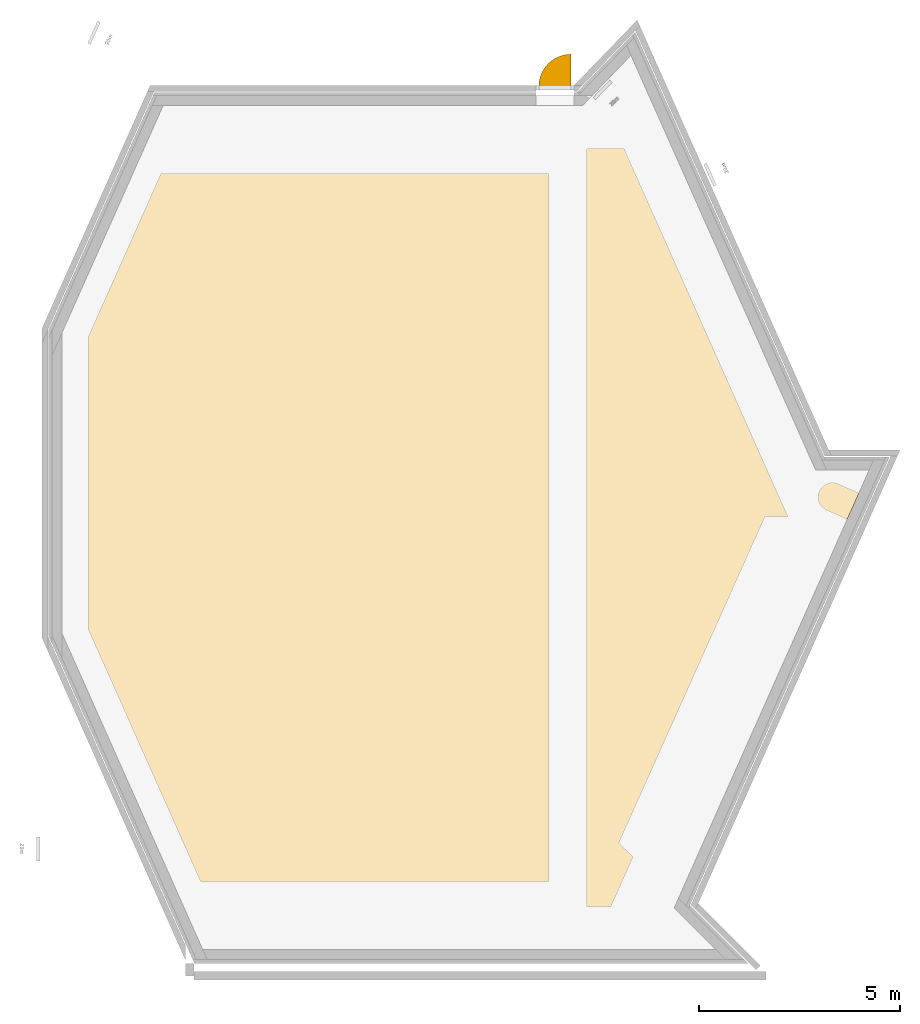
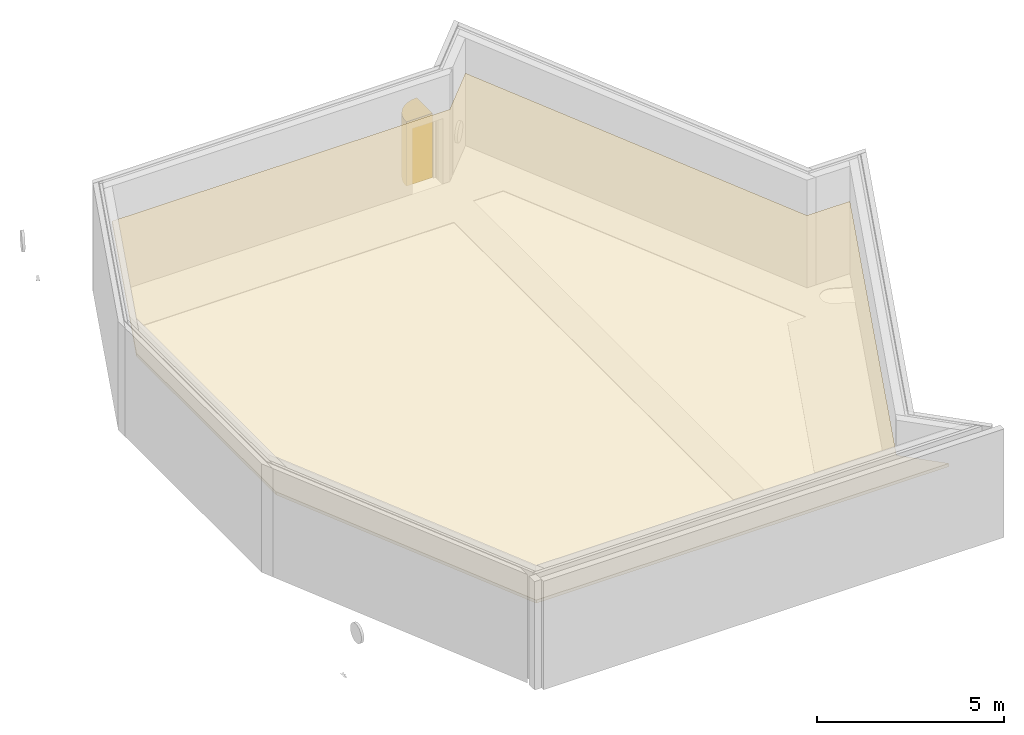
# One storey, part 3 of 4: 1 covering, 1 door, 1 element without a shape of its own.
"""IFC2X3 building model written with IfcOpenShell, lengths in millimetres."""

import ifcopenshell
import ifcopenshell.guid

model = None  # the IFC model being written
_history = None  # IfcOwnerHistory: only IFC2X3 demands one
_inside = {}  # id of a spatial element -> (the spatial element, [elements in it])
_under = {}  # id of a project, library or spatial element -> (it, [spatial elements below it])
_declared = {}  # id of a project -> (the project, [libraries it declares])
_typed = {}  # id of a type object -> (the type object, [elements of that type])
_made_of = {}  # id of a material, layer set ... -> (it, [elements and type objects made of it])


def new_model(schema):
    """Start an empty IFC model of exactly this schema.

    Asked for "IFC4X3", IfcOpenShell would pick the latest addendum, in which some entities
    have other attributes; the version numbers below select the first issue.
    IFC2X3 requires an IfcOwnerHistory on every rooted entity: one is made here for all.
    """
    global model, _history
    if schema == "IFC4X3":
        model = ifcopenshell.file(schema_version=(4, 3, 0, 0))
    else:
        model = ifcopenshell.file(schema=schema)
    _inside.clear()
    _under.clear()
    _declared.clear()
    _typed.clear()
    _made_of.clear()
    _history = None
    if model.schema == "IFC2X3":
        org = make("IfcOrganization", Name="unknown")
        user = make(
            "IfcPersonAndOrganization",
            ThePerson=make("IfcPerson", FamilyName="unknown"),
            TheOrganization=org,
        )
        app = make(
            "IfcApplication",
            ApplicationDeveloper=org,
            Version="unknown",
            ApplicationFullName="unknown",
            ApplicationIdentifier="unknown",
        )
        _history = make(
            "IfcOwnerHistory",
            OwningUser=user,
            OwningApplication=app,
            ChangeAction="ADDED",
            CreationDate=0,
        )
    return model


def make(cls, **values):
    """One entity of the class cls with the attributes given. An attribute that is None is left unset."""
    return model.create_entity(
        cls, **{name: value for name, value in values.items() if value is not None}
    )


def entity(cls, *values):
    """Any entity or typed value of the class cls, its attributes in the order of the schema. None: left unset."""
    e = model.create_entity(cls)
    for i, value in enumerate(values):
        if value is not None:
            e[i] = value
    return e


def rooted(cls, **values):
    """An entity with a GlobalId (a new one), such as an element, a storey or a relation."""
    return make(cls, GlobalId=ifcopenshell.guid.new(), OwnerHistory=_history, **values)


def si_unit(unit_type, name, prefix=None):
    """IfcSIUnit, for example si_unit("LENGTHUNIT", "METRE", prefix="MILLI")."""
    return make("IfcSIUnit", UnitType=unit_type, Prefix=prefix, Name=name)


def converted_unit(unit_type, name, factor, base, dimensions=None, offset=None):
    """IfcConversionBasedUnit, such as the inch: factor (a typed value) times the base unit."""
    return make(
        "IfcConversionBasedUnit"
        if offset is None
        else "IfcConversionBasedUnitWithOffset",
        ConversionOffset=offset,
        Dimensions=None
        if dimensions is None
        else entity("IfcDimensionalExponents", *dimensions),
        UnitType=unit_type,
        Name=name,
        ConversionFactor=make(
            "IfcMeasureWithUnit", ValueComponent=factor, UnitComponent=base
        ),
    )


def derived_unit(unit_type, elements):
    """IfcDerivedUnit: a product of units, each with its exponent."""
    return make(
        "IfcDerivedUnit",
        Elements=[
            make("IfcDerivedUnitElement", Unit=unit, Exponent=power)
            for unit, power in elements
        ],
        UnitType=unit_type,
    )


def assignment(units):
    """IfcUnitAssignment: the units of a project."""
    return None if units is None else make("IfcUnitAssignment", Units=units)


def point(xyz):
    """IfcCartesianPoint."""
    return None if xyz is None else make("IfcCartesianPoint", Coordinates=xyz)


def direction(xyz):
    """IfcDirection."""
    return None if xyz is None else make("IfcDirection", DirectionRatios=xyz)


def frame(location, z_axis=None, x_axis=None):
    """IfcAxis2Placement3D, a coordinate frame: its origin and axes. An axis left out is left unset."""
    return make(
        "IfcAxis2Placement3D",
        Location=point(location),
        Axis=direction(z_axis),
        RefDirection=direction(x_axis),
    )


def frame_2d(location, x_axis=None):
    """IfcAxis2Placement2D, a coordinate frame in the plane: its origin and x axis."""
    return make(
        "IfcAxis2Placement2D", Location=point(location), RefDirection=direction(x_axis)
    )


def origin():
    """The frame at (0, 0, 0) with its axes left unset."""
    return frame((0.0, 0.0, 0.0))


def origin_2d_with_axis():
    """The frame at (0, 0) in the plane with the x axis (1, 0) written out."""
    return frame_2d((0.0, 0.0), x_axis=(1.0, 0.0))


def place(relative_to, where):
    """IfcLocalPlacement: puts the frame where relative to a parent placement (None: the world)."""
    return make(
        "IfcLocalPlacement", PlacementRelTo=relative_to, RelativePlacement=where
    )


def context(
    kind, dimensions, precision=None, world=None, true_north=None, identifier=None
):
    """IfcGeometricRepresentationContext, for example the 3D "Model" context."""
    return make(
        "IfcGeometricRepresentationContext",
        ContextIdentifier=identifier,
        ContextType=kind,
        CoordinateSpaceDimension=dimensions,
        Precision=precision,
        WorldCoordinateSystem=world,
        TrueNorth=true_north,
    )


def subcontext(parent, identifier, kind, view, scale=None):
    """IfcGeometricRepresentationSubContext, for example "Body" below "Model"."""
    return make(
        "IfcGeometricRepresentationSubContext",
        ContextIdentifier=identifier,
        ContextType=kind,
        ParentContext=parent,
        TargetScale=scale,
        TargetView=view,
    )


def project(units=None, contexts=None):
    """IfcProject with its units and contexts."""
    return rooted(
        "IfcProject",
        Name="project",
        RepresentationContexts=contexts,
        UnitsInContext=assignment(units),
    )


def spatial(cls, under=None, at=None, **own):
    """A site, building, storey or space (cls), placed at a placement, below another one or the project."""
    s = rooted(cls, ObjectPlacement=at, **own)
    if under is not None:
        _under.setdefault(under.id(), (under, []))[1].append(s)
    return s


def polyline(points):
    """IfcPolyline through the points."""
    return make("IfcPolyline", Points=[point(p) for p in points])


def circle_curve(where, radius):
    """IfcCircle in the frame where."""
    return make("IfcCircle", Position=where, Radius=radius)


def parameter(value):
    """IfcParameterValue: where a trimmed curve begins or ends, as a parameter of its basis curve."""
    return model.create_entity("IfcParameterValue", value)


def trimmed(basis, trim1, trim2, sense, master):
    """IfcTrimmedCurve: the piece of a basis curve between two trims."""
    return make(
        "IfcTrimmedCurve",
        BasisCurve=basis,
        Trim1=trim1,
        Trim2=trim2,
        SenseAgreement=sense,
        MasterRepresentation=master,
    )


def segment(curve, same_sense, transition):
    """IfcCompositeCurveSegment."""
    return make(
        "IfcCompositeCurveSegment",
        Transition=transition,
        SameSense=same_sense,
        ParentCurve=curve,
    )


def composite_curve(segments, self_intersect=None):
    """IfcCompositeCurve: segments joined end to end."""
    return make("IfcCompositeCurve", Segments=segments, SelfIntersect=self_intersect)


def profile(cls, at=None, kind="AREA", **sizes):
    """A parametric profile (cls). Its sizes go by their IFC names, for example OverallWidth=200.0."""
    return make(cls, ProfileType=kind, Position=at, **sizes)


def rectangle(**sizes):
    """IfcRectangleProfileDef."""
    return profile("IfcRectangleProfileDef", **sizes)


def outline(outer, holes=None, kind="AREA"):
    """IfcArbitraryClosedProfileDef: a profile drawn as a closed curve; with holes, ...WithVoids."""
    if holes is None:
        return make("IfcArbitraryClosedProfileDef", ProfileType=kind, OuterCurve=outer)
    return make(
        "IfcArbitraryProfileDefWithVoids",
        ProfileType=kind,
        OuterCurve=outer,
        InnerCurves=holes,
    )


def extrude(swept, where, along, depth):
    """IfcExtrudedAreaSolid: the profile swept, set in the frame where, extruded along a direction by depth."""
    return make(
        "IfcExtrudedAreaSolid",
        SweptArea=swept,
        Position=where,
        ExtrudedDirection=direction(along),
        Depth=depth,
    )


def shape(context_of_items, identifier, shape_type, items):
    """IfcShapeRepresentation: the items that make up one representation, for example the "Body"."""
    return make(
        "IfcShapeRepresentation",
        ContextOfItems=context_of_items,
        RepresentationIdentifier=identifier,
        RepresentationType=shape_type,
        Items=items,
    )


def source(mapping_origin, context_of_items, identifier, shape_type, items):
    """IfcRepresentationMap: a shape defined once, which mapped items show again and again."""
    return make(
        "IfcRepresentationMap",
        MappingOrigin=mapping_origin,
        MappedRepresentation=shape(context_of_items, identifier, shape_type, items),
    )


def transform(
    local_origin,
    x_axis=None,
    y_axis=None,
    z_axis=None,
    scale=None,
    scale2=None,
    scale3=None,
    uniform=True,
):
    """IfcCartesianTransformationOperator3D, or its non-uniform kind. x_axis, y_axis, z_axis: its Axis1, 2, 3."""
    if uniform:
        return make(
            "IfcCartesianTransformationOperator3D",
            Axis1=direction(x_axis),
            Axis2=direction(y_axis),
            LocalOrigin=point(local_origin),
            Scale=scale,
            Axis3=direction(z_axis),
        )
    return make(
        "IfcCartesianTransformationOperator3DnonUniform",
        Axis1=direction(x_axis),
        Axis2=direction(y_axis),
        LocalOrigin=point(local_origin),
        Scale=scale,
        Axis3=direction(z_axis),
        Scale2=scale2,
        Scale3=scale3,
    )


def mapped(mapping_source, mapping_target):
    """IfcMappedItem: shows the shape of a source again, moved by a transform."""
    return make(
        "IfcMappedItem", MappingSource=mapping_source, MappingTarget=mapping_target
    )


def material(Name=None, Category=None):
    """IfcMaterial."""
    return make("IfcMaterial", Name=Name, Category=Category)


def material_list(materials):
    """IfcMaterialList."""
    return make("IfcMaterialList", Materials=materials)


def layer(
    of_material, thickness, ventilated=None, Name=None, Category=None, Priority=None
):
    """IfcMaterialLayer: one layer of a wall or slab, of a material (None: an air gap)."""
    return make(
        "IfcMaterialLayer",
        Material=of_material,
        LayerThickness=thickness,
        IsVentilated=ventilated,
        Name=Name,
        Category=Category,
        Priority=Priority,
    )


def layer_set(layers, Name=None):
    """IfcMaterialLayerSet."""
    return make("IfcMaterialLayerSet", MaterialLayers=layers, LayerSetName=Name)


def layer_usage(for_layer_set, set_direction, sense, offset, extent=None):
    """IfcMaterialLayerSetUsage: how a layer set lies in its element."""
    return make(
        "IfcMaterialLayerSetUsage",
        ForLayerSet=for_layer_set,
        LayerSetDirection=set_direction,
        DirectionSense=sense,
        OffsetFromReferenceLine=offset,
        ReferenceExtent=extent,
    )


def made_of(thing, what):
    """Note that an element or type object is made of a material, layer set ...; save() writes the relation."""
    if what is not None:
        _made_of.setdefault(what.id(), (what, []))[1].append(thing)
    return thing


def type_object(cls, material=None, **own):
    """A type object (cls), such as IfcWallType, which elements share."""
    return made_of(rooted(cls, **own), material)


def type_shapes(of_type, sources):
    """Give a type object the sources (RepresentationMaps) that its elements show as mapped items."""
    of_type.RepresentationMaps = sources


def element(
    cls,
    number,
    at=None,
    inside=None,
    cuts=None,
    type_object=None,
    material=None,
    context=None,
    identifier="Body",
    shape_type=None,
    held_by="IfcProductDefinitionShape",
    body=None,
    shapes=None,
    **own,
):
    """One element of the class cls, such as IfcWall. Its Tag is "e" and its number.

    at: its placement. inside: the storey or other place that contains it. cuts: it is an
    opening in that element (IfcRelVoidsElement). A single representation is given by context,
    identifier, shape_type and body (its items); several are given by shapes. held_by: the class
    of the entity that holds the representations. save() writes the other relations.
    """
    e = rooted(cls, Tag="e%d" % number, ObjectPlacement=at, **own)
    if body is not None:
        shapes = [shape(context, identifier, shape_type, body)]
    if shapes is not None:
        e.Representation = make(held_by, Representations=shapes)
    if inside is not None:
        _inside.setdefault(inside.id(), (inside, []))[1].append(e)
    if cuts is not None:
        rooted(
            "IfcRelVoidsElement", RelatingBuildingElement=cuts, RelatedOpeningElement=e
        )
    if type_object is not None:
        _typed.setdefault(type_object.id(), (type_object, []))[1].append(e)
    return made_of(e, material)


def aggregate(whole, parts):
    """IfcRelAggregates: a whole, such as a stair, and the parts it consists of."""
    return rooted("IfcRelAggregates", RelatingObject=whole, RelatedObjects=parts)


def save(model, path):
    """Write the relations noted so far, then the file.

    IfcRelAggregates (storeys below a building ...), IfcRelContainedInSpatialStructure (elements
    in a storey), IfcRelDefinesByType, IfcRelAssociatesMaterial and IfcRelDeclares: one each for
    every whole, place, type object, material and project.
    """
    for whole, parts in _under.values():
        aggregate(whole, parts)
    for where, things in _inside.values():
        rooted(
            "IfcRelContainedInSpatialStructure",
            RelatedElements=things,
            RelatingStructure=where,
        )
    for kind, things in _typed.values():
        rooted("IfcRelDefinesByType", RelatedObjects=things, RelatingType=kind)
    for what, things in _made_of.values():
        rooted("IfcRelAssociatesMaterial", RelatedObjects=things, RelatingMaterial=what)
    for by, libraries in _declared.values():
        rooted("IfcRelDeclares", RelatingContext=by, RelatedDefinitions=libraries)
    model.write(path)


model = new_model("IFC2X3")

# Units and contexts
model_context = context("Model", 3, precision=0.01, world=origin(), true_north=direction((6.123031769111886e-17, 1.0)))
body_context = subcontext(model_context, "Body", "Model", "MODEL_VIEW")
ifc_project = project(units=[si_unit("LENGTHUNIT", "METRE", prefix="MILLI"), si_unit("AREAUNIT", "SQUARE_METRE"), si_unit("VOLUMEUNIT", "CUBIC_METRE"), converted_unit("PLANEANGLEUNIT", "DEGREE", entity("IfcRatioMeasure", 0.017453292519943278), si_unit("PLANEANGLEUNIT", "RADIAN"), dimensions=[0, 0, 0, 0, 0, 0, 0]), si_unit("MASSUNIT", "GRAM", prefix="KILO"), derived_unit("MASSDENSITYUNIT", [(si_unit("MASSUNIT", "GRAM", prefix="KILO"), 1), (si_unit("LENGTHUNIT", "METRE"), -3)]), derived_unit("MOMENTOFINERTIAUNIT", [(si_unit("LENGTHUNIT", "METRE"), 4)]), si_unit("TIMEUNIT", "SECOND"), si_unit("FREQUENCYUNIT", "HERTZ"), si_unit("THERMODYNAMICTEMPERATUREUNIT", "DEGREE_CELSIUS"), derived_unit("THERMALTRANSMITTANCEUNIT", [(si_unit("MASSUNIT", "GRAM", prefix="KILO"), 1), (si_unit("THERMODYNAMICTEMPERATUREUNIT", "KELVIN"), -1), (si_unit("TIMEUNIT", "SECOND"), -3)]), derived_unit("VOLUMETRICFLOWRATEUNIT", [(si_unit("LENGTHUNIT", "METRE"), 3), (si_unit("TIMEUNIT", "SECOND"), -1)]), derived_unit("MASSFLOWRATEUNIT", [(si_unit("MASSUNIT", "GRAM", prefix="KILO"), 1), (si_unit("TIMEUNIT", "SECOND"), -1)]), derived_unit("ROTATIONALFREQUENCYUNIT", [(si_unit("TIMEUNIT", "SECOND"), -1)]), si_unit("ELECTRICCURRENTUNIT", "AMPERE"), si_unit("ELECTRICVOLTAGEUNIT", "VOLT"), si_unit("POWERUNIT", "WATT"), si_unit("FORCEUNIT", "NEWTON", prefix="KILO"), si_unit("ILLUMINANCEUNIT", "LUX"), si_unit("LUMINOUSFLUXUNIT", "LUMEN"), si_unit("LUMINOUSINTENSITYUNIT", "CANDELA"), derived_unit("USERDEFINED", [(si_unit("MASSUNIT", "GRAM", prefix="KILO"), -1), (si_unit("LENGTHUNIT", "METRE"), -2), (si_unit("TIMEUNIT", "SECOND"), 3), (si_unit("LUMINOUSFLUXUNIT", "LUMEN"), 1)]), derived_unit("SOUNDPOWERUNIT", [(si_unit("MASSUNIT", "GRAM", prefix="KILO"), 1), (si_unit("LENGTHUNIT", "METRE"), 2), (si_unit("TIMEUNIT", "SECOND"), -3)]), derived_unit("SOUNDPRESSUREUNIT", [(si_unit("MASSUNIT", "GRAM", prefix="KILO"), 1), (si_unit("LENGTHUNIT", "METRE"), -1), (si_unit("TIMEUNIT", "SECOND"), -2)]), derived_unit("LINEARVELOCITYUNIT", [(si_unit("LENGTHUNIT", "METRE"), 1), (si_unit("TIMEUNIT", "SECOND"), -1)]), si_unit("PRESSUREUNIT", "PASCAL"), derived_unit("USERDEFINED", [(si_unit("LENGTHUNIT", "METRE"), -2), (si_unit("MASSUNIT", "GRAM", prefix="KILO"), 1), (si_unit("TIMEUNIT", "SECOND"), -2)]), derived_unit("LINEARFORCEUNIT", [(si_unit("MASSUNIT", "GRAM", prefix="KILO"), 1), (si_unit("LENGTHUNIT", "METRE"), 1), (si_unit("TIMEUNIT", "SECOND"), -2), (si_unit("LENGTHUNIT", "METRE"), -1)]), derived_unit("PLANARFORCEUNIT", [(si_unit("MASSUNIT", "GRAM", prefix="KILO"), 1), (si_unit("LENGTHUNIT", "METRE"), 1), (si_unit("TIMEUNIT", "SECOND"), -2), (si_unit("LENGTHUNIT", "METRE"), -2)])], contexts=[model_context])

# Site, building, storey
site_placement = place(None, frame((-10000.0, -10000.0, 0.0)))
site = spatial("IfcSite", under=ifc_project, at=site_placement, Name="Default", CompositionType="ELEMENT")
building_placement = place(site_placement, origin())
building = spatial("IfcBuilding", under=site, at=building_placement, CompositionType="ELEMENT")
storey_placement = place(building_placement, frame((0.0, 0.0, 12600.0)))
storey = spatial("IfcBuildingStorey", under=building, at=storey_placement, Name="03 3e verdieping", CompositionType="ELEMENT", Elevation=12600.0)

# Curtain wall, door
curtain_wall_type = type_object("IfcCurtainWallType", Name="Curtain Wall:NLRS_32_CWA_houten binnenkozijnen ts90_ags", PredefinedType="NOTDEFINED")
curtain_wall_placement = place(storey_placement, frame((0.0, 0.0, -12600.0)))
curtain_wall = element("IfcCurtainWall", 1, at=curtain_wall_placement, inside=storey, type_object=curtain_wall_type, Name="Curtain Wall:NLRS_32_CWA_houten binnenkozijnen ts90_ags", ObjectType="Curtain Wall:NLRS_32_CWA_houten binnenkozijnen ts90_ags")
ifc_material_1 = material(Name="NLRS_a_clashvolume")
ifc_material_2 = material(Name="<Unnamed>")
ifc_material_list_1 = material_list([ifc_material_1, ifc_material_2])
ifc_material_list_2 = material_list([ifc_material_1, ifc_material_2])
door_style = type_object("IfcDoorStyle", Name="NLRS_31_DO_houten deur_ags:deur dicht", ConstructionType="NOTDEFINED", OperationType="NOTDEFINED", ParameterTakesPrecedence=False, Sizeable=False, material=ifc_material_list_2)
shared_shape = source(origin(), body_context, "Body", "SweptSolid", [
    extrude(outline(composite_curve([segment(trimmed(circle_curve(frame_2d((-268.6666666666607, 268.6666666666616), x_axis=(1.0, 0.0)), 805.9999999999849), [parameter(270.0)], [parameter(0.0)], True, "PARAMETER"), True, "CONTINUOUS"), segment(polyline([(537.3333333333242, 268.6666666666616), (-268.66666666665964, 268.6666666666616)]), True, "CONTINUOUS"), segment(polyline([(-268.66666666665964, 268.6666666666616), (-268.66666666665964, -537.3333333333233)]), True, "CONTINUOUS")], self_intersect=False)), frame((-134.3333333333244, -301.1666666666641, 0.0)), (0.0, 0.0, 1.0), 2103.0000000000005),
    extrude(rectangle(XDim=40.00000000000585, YDim=805.99999999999, at=origin_2d_with_axis()), frame((0.0, -12.499999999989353, 0.0), z_axis=(0.0, 0.0, 1.0), x_axis=(0.0, 1.0, 0.0)), (0.0, 0.0, 1.0), 2103.0000000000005),
])
type_shapes(door_style, [shared_shape])
door_placement = place(curtain_wall_placement, frame((38061.263676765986, 49595.0, 12600.0), z_axis=(0.0, 0.0, 1.0), x_axis=(-1.0, 0.0, 0.0)))
door = element("IfcDoor", 2, at=door_placement, type_object=door_style, material=ifc_material_list_1, Name="NLRS_31_DO_houten deur_ags:deur dicht", ObjectType="NLRS_31_DO_houten deur_ags:deur dicht", OverallHeight=2103.0000000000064, OverallWidth=806.0000000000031, context=body_context, shape_type="MappedRepresentation", body=[
    mapped(shared_shape, transform((0.0, 0.0, 0.0), scale=1.0)),
])
aggregate(curtain_wall, [door])

# Space
space_placement = place(storey_placement, origin())
space = spatial("IfcSpace", under=storey, at=space_placement, Name="3.13", CompositionType="ELEMENT", InteriorOrExteriorSpace="INTERNAL")

# Covering
ifc_material_3 = material(Name="NLRS_ontwerpmateriaal grijs")
ifc_layer = layer(ifc_material_3, 100.0)
ifc_layer_set = layer_set([ifc_layer], Name="Compound Ceiling:NLRS_45_CEI_ontwerpplafond 100mm_ags")
ifc_layer_usage = layer_usage(ifc_layer_set, "AXIS3", "POSITIVE", 0.0)
covering_type = type_object("IfcCoveringType", Name="Compound Ceiling:NLRS_45_CEI_ontwerpplafond 100mm_ags", PredefinedType="CEILING")
covering_placement = place(space_placement, origin())
element("IfcCovering", 3, at=covering_placement, inside=space, type_object=covering_type, material=ifc_layer_usage, Name="Compound Ceiling:NLRS_45_CEI_ontwerpplafond 100mm_ags", ObjectType="Compound Ceiling:NLRS_45_CEI_ontwerpplafond 100mm_ags", PredefinedType="CEILING", context=body_context, shape_type="SweptSolid", body=[
    extrude(outline(polyline([(-5742.990750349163, -11139.275969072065), (458.74336422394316, -11139.275969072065), (7292.111327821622, -8096.864534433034), (13064.86574668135, -1685.571231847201), (7865.759917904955, 9991.811651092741), (7341.396686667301, 8625.798731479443), (-4599.270063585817, 8625.798731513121), (-4058.071867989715, 7410.247682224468), (-11629.647369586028, -998.8388268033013), (-9992.896991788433, -1593.8302650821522), (-5742.990750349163, -11139.275969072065)])), frame((36137.82269867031, 39374.76517280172, 2300.0), z_axis=(0.0, 0.0, 1.0), x_axis=(-0.4067366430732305, -0.9135454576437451, 0.0)), (0.0, 0.0, 1.0), 99.99999999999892),
])

save(model, "model.ifc")
